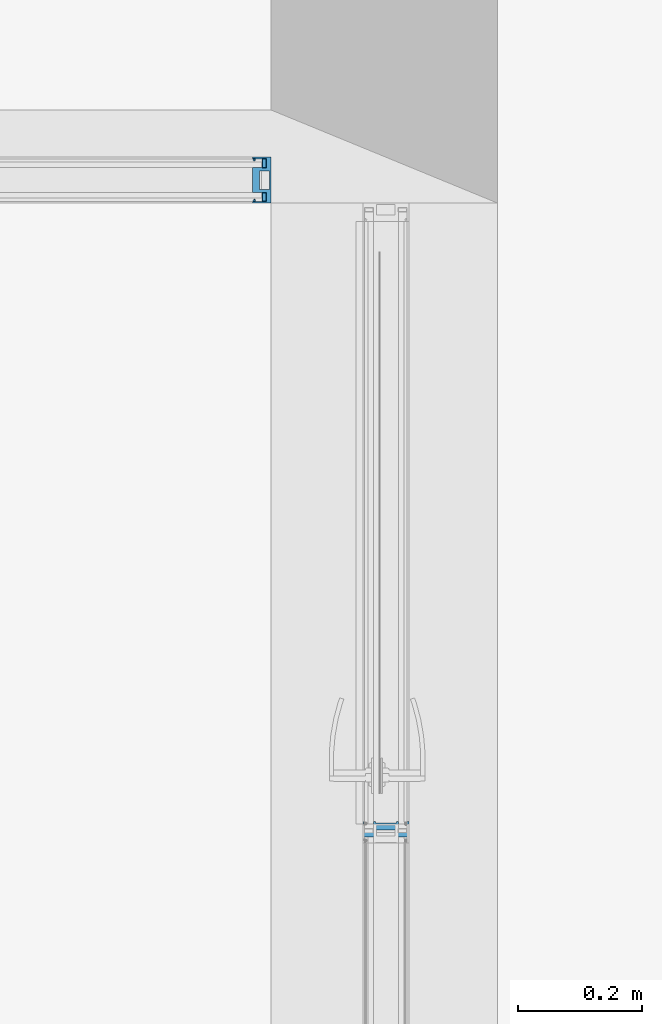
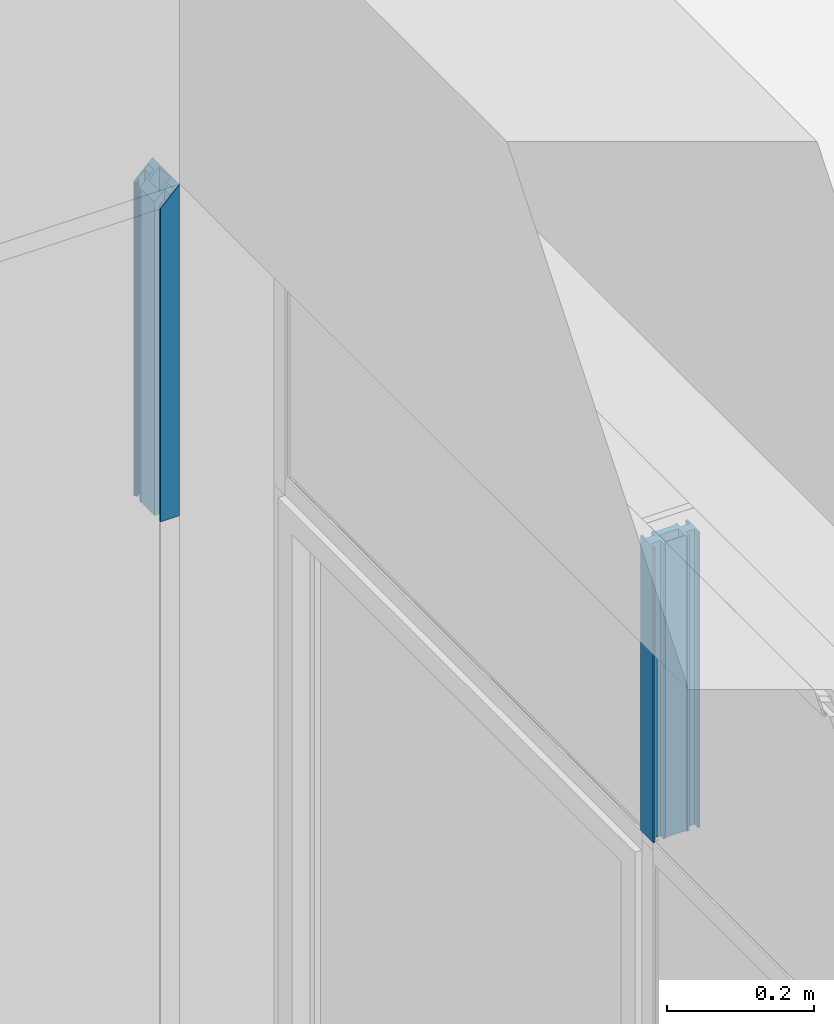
# One storey, part 73 of 89: 3 building element parts, 4 elements without a shape of their own.
"""IFC2X3 building model written with IfcOpenShell, lengths in millimetres."""

import ifcopenshell
import ifcopenshell.guid

model = None  # the IFC model being written
_history = None  # IfcOwnerHistory: only IFC2X3 demands one
_inside = {}  # id of a spatial element -> (the spatial element, [elements in it])
_under = {}  # id of a project, library or spatial element -> (it, [spatial elements below it])
_declared = {}  # id of a project -> (the project, [libraries it declares])
_typed = {}  # id of a type object -> (the type object, [elements of that type])
_made_of = {}  # id of a material, layer set ... -> (it, [elements and type objects made of it])


def new_model(schema):
    """Start an empty IFC model of exactly this schema.

    Asked for "IFC4X3", IfcOpenShell would pick the latest addendum, in which some entities
    have other attributes; the version numbers below select the first issue.
    IFC2X3 requires an IfcOwnerHistory on every rooted entity: one is made here for all.
    """
    global model, _history
    if schema == "IFC4X3":
        model = ifcopenshell.file(schema_version=(4, 3, 0, 0))
    else:
        model = ifcopenshell.file(schema=schema)
    _inside.clear()
    _under.clear()
    _declared.clear()
    _typed.clear()
    _made_of.clear()
    _history = None
    if model.schema == "IFC2X3":
        org = make("IfcOrganization", Name="unknown")
        user = make(
            "IfcPersonAndOrganization",
            ThePerson=make("IfcPerson", FamilyName="unknown"),
            TheOrganization=org,
        )
        app = make(
            "IfcApplication",
            ApplicationDeveloper=org,
            Version="unknown",
            ApplicationFullName="unknown",
            ApplicationIdentifier="unknown",
        )
        _history = make(
            "IfcOwnerHistory",
            OwningUser=user,
            OwningApplication=app,
            ChangeAction="ADDED",
            CreationDate=0,
        )
    return model


def make(cls, **values):
    """One entity of the class cls with the attributes given. An attribute that is None is left unset."""
    return model.create_entity(
        cls, **{name: value for name, value in values.items() if value is not None}
    )


def entity(cls, *values):
    """Any entity or typed value of the class cls, its attributes in the order of the schema. None: left unset."""
    e = model.create_entity(cls)
    for i, value in enumerate(values):
        if value is not None:
            e[i] = value
    return e


def rooted(cls, **values):
    """An entity with a GlobalId (a new one), such as an element, a storey or a relation."""
    return make(cls, GlobalId=ifcopenshell.guid.new(), OwnerHistory=_history, **values)


def si_unit(unit_type, name, prefix=None):
    """IfcSIUnit, for example si_unit("LENGTHUNIT", "METRE", prefix="MILLI")."""
    return make("IfcSIUnit", UnitType=unit_type, Prefix=prefix, Name=name)


def converted_unit(unit_type, name, factor, base, dimensions=None, offset=None):
    """IfcConversionBasedUnit, such as the inch: factor (a typed value) times the base unit."""
    return make(
        "IfcConversionBasedUnit"
        if offset is None
        else "IfcConversionBasedUnitWithOffset",
        ConversionOffset=offset,
        Dimensions=None
        if dimensions is None
        else entity("IfcDimensionalExponents", *dimensions),
        UnitType=unit_type,
        Name=name,
        ConversionFactor=make(
            "IfcMeasureWithUnit", ValueComponent=factor, UnitComponent=base
        ),
    )


def derived_unit(unit_type, elements):
    """IfcDerivedUnit: a product of units, each with its exponent."""
    return make(
        "IfcDerivedUnit",
        Elements=[
            make("IfcDerivedUnitElement", Unit=unit, Exponent=power)
            for unit, power in elements
        ],
        UnitType=unit_type,
    )


def money_unit(currency):
    """IfcMonetaryUnit."""
    return make("IfcMonetaryUnit", Currency=currency)


def assignment(units):
    """IfcUnitAssignment: the units of a project."""
    return None if units is None else make("IfcUnitAssignment", Units=units)


def point(xyz):
    """IfcCartesianPoint."""
    return None if xyz is None else make("IfcCartesianPoint", Coordinates=xyz)


def direction(xyz):
    """IfcDirection."""
    return None if xyz is None else make("IfcDirection", DirectionRatios=xyz)


def frame(location, z_axis=None, x_axis=None):
    """IfcAxis2Placement3D, a coordinate frame: its origin and axes. An axis left out is left unset."""
    return make(
        "IfcAxis2Placement3D",
        Location=point(location),
        Axis=direction(z_axis),
        RefDirection=direction(x_axis),
    )


def origin_with_axes():
    """The frame at (0, 0, 0) with the z axis (0, 0, 1) and the x axis (1, 0, 0) written out."""
    return frame((0.0, 0.0, 0.0), z_axis=(0.0, 0.0, 1.0), x_axis=(1.0, 0.0, 0.0))


def place(relative_to, where):
    """IfcLocalPlacement: puts the frame where relative to a parent placement (None: the world)."""
    return make(
        "IfcLocalPlacement", PlacementRelTo=relative_to, RelativePlacement=where
    )


def context(
    kind, dimensions, precision=None, world=None, true_north=None, identifier=None
):
    """IfcGeometricRepresentationContext, for example the 3D "Model" context."""
    return make(
        "IfcGeometricRepresentationContext",
        ContextIdentifier=identifier,
        ContextType=kind,
        CoordinateSpaceDimension=dimensions,
        Precision=precision,
        WorldCoordinateSystem=world,
        TrueNorth=true_north,
    )


def subcontext(parent, identifier, kind, view, scale=None):
    """IfcGeometricRepresentationSubContext, for example "Body" below "Model"."""
    return make(
        "IfcGeometricRepresentationSubContext",
        ContextIdentifier=identifier,
        ContextType=kind,
        ParentContext=parent,
        TargetScale=scale,
        TargetView=view,
    )


def project(units=None, contexts=None):
    """IfcProject with its units and contexts."""
    return rooted(
        "IfcProject",
        Name="project",
        RepresentationContexts=contexts,
        UnitsInContext=assignment(units),
    )


def spatial(cls, under=None, at=None, **own):
    """A site, building, storey or space (cls), placed at a placement, below another one or the project."""
    s = rooted(cls, ObjectPlacement=at, **own)
    if under is not None:
        _under.setdefault(under.id(), (under, []))[1].append(s)
    return s


def faces_of(points, faces, orient=None, outer=None):
    """IfcFace entities. A face is a list of loops; a loop is a list of indices into points, from 0.

    orient and outer hold one flag for each loop. By default every Orientation is true, the
    first loop of a face is its IfcFaceOuterBound and the others are IfcFaceBound.
    """
    made = []
    for i, loops in enumerate(faces):
        bounds = []
        for j, loop in enumerate(loops):
            is_outer = j == 0 if outer is None else outer[i][j]
            bounds.append(
                make(
                    "IfcFaceOuterBound" if is_outer else "IfcFaceBound",
                    Bound=make("IfcPolyLoop", Polygon=[points[k] for k in loop]),
                    Orientation=True if orient is None else orient[i][j],
                )
            )
        made.append(make("IfcFace", Bounds=bounds))
    return made


def faceted_brep(points, faces, orient=None, outer=None, voids=None):
    """IfcFacetedBrep: a solid bounded by flat faces; with voids (closed shells), ...WithVoids."""
    shared = [point(p) for p in points]
    hull = make("IfcClosedShell", CfsFaces=faces_of(shared, faces, orient, outer))
    if voids is None:
        return make("IfcFacetedBrep", Outer=hull)
    return make(
        "IfcFacetedBrepWithVoids",
        Outer=hull,
        Voids=[
            make(cls, CfsFaces=faces_of(shared, fs, o, b)) for cls, fs, o, b in voids
        ],
    )


def shape(context_of_items, identifier, shape_type, items):
    """IfcShapeRepresentation: the items that make up one representation, for example the "Body"."""
    return make(
        "IfcShapeRepresentation",
        ContextOfItems=context_of_items,
        RepresentationIdentifier=identifier,
        RepresentationType=shape_type,
        Items=items,
    )


def material(Name=None, Category=None):
    """IfcMaterial."""
    return make("IfcMaterial", Name=Name, Category=Category)


def made_of(thing, what):
    """Note that an element or type object is made of a material, layer set ...; save() writes the relation."""
    if what is not None:
        _made_of.setdefault(what.id(), (what, []))[1].append(thing)
    return thing


def type_object(cls, material=None, **own):
    """A type object (cls), such as IfcWallType, which elements share."""
    return made_of(rooted(cls, **own), material)


def element(
    cls,
    number,
    at=None,
    inside=None,
    cuts=None,
    type_object=None,
    material=None,
    context=None,
    identifier="Body",
    shape_type=None,
    held_by="IfcProductDefinitionShape",
    body=None,
    shapes=None,
    **own,
):
    """One element of the class cls, such as IfcWall. Its Tag is "e" and its number.

    at: its placement. inside: the storey or other place that contains it. cuts: it is an
    opening in that element (IfcRelVoidsElement). A single representation is given by context,
    identifier, shape_type and body (its items); several are given by shapes. held_by: the class
    of the entity that holds the representations. save() writes the other relations.
    """
    e = rooted(cls, Tag="e%d" % number, ObjectPlacement=at, **own)
    if body is not None:
        shapes = [shape(context, identifier, shape_type, body)]
    if shapes is not None:
        e.Representation = make(held_by, Representations=shapes)
    if inside is not None:
        _inside.setdefault(inside.id(), (inside, []))[1].append(e)
    if cuts is not None:
        rooted(
            "IfcRelVoidsElement", RelatingBuildingElement=cuts, RelatedOpeningElement=e
        )
    if type_object is not None:
        _typed.setdefault(type_object.id(), (type_object, []))[1].append(e)
    return made_of(e, material)


def aggregate(whole, parts):
    """IfcRelAggregates: a whole, such as a stair, and the parts it consists of."""
    return rooted("IfcRelAggregates", RelatingObject=whole, RelatedObjects=parts)


def save(model, path):
    """Write the relations noted so far, then the file.

    IfcRelAggregates (storeys below a building ...), IfcRelContainedInSpatialStructure (elements
    in a storey), IfcRelDefinesByType, IfcRelAssociatesMaterial and IfcRelDeclares: one each for
    every whole, place, type object, material and project.
    """
    for whole, parts in _under.values():
        aggregate(whole, parts)
    for where, things in _inside.values():
        rooted(
            "IfcRelContainedInSpatialStructure",
            RelatedElements=things,
            RelatingStructure=where,
        )
    for kind, things in _typed.values():
        rooted("IfcRelDefinesByType", RelatedObjects=things, RelatingType=kind)
    for what, things in _made_of.values():
        rooted("IfcRelAssociatesMaterial", RelatedObjects=things, RelatingMaterial=what)
    for by, libraries in _declared.values():
        rooted("IfcRelDeclares", RelatingContext=by, RelatedDefinitions=libraries)
    model.write(path)


model = new_model("IFC2X3")

# Units and contexts
model_context = context("Model", 3, precision=0.01, world=origin_with_axes(), true_north=direction((0.0, 1.0)))
body_context = subcontext(model_context, "Body", "Model", "MODEL_VIEW")
ifc_project = project(units=[si_unit("LENGTHUNIT", "METRE", prefix="MILLI"), si_unit("AREAUNIT", "SQUARE_METRE"), si_unit("VOLUMEUNIT", "CUBIC_METRE"), converted_unit("PLANEANGLEUNIT", "DEGREE", entity("IfcPlaneAngleMeasure", 0.0174532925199), si_unit("PLANEANGLEUNIT", "RADIAN"), dimensions=[0, 0, 0, 0, 0, 0, 0]), si_unit("SOLIDANGLEUNIT", "STERADIAN"), money_unit("EUR"), converted_unit("TIMEUNIT", "Year", entity("IfcTimeMeasure", 31556926.0), si_unit("TIMEUNIT", "SECOND"), dimensions=[0, 0, 1, 0, 0, 0, 0]), si_unit("MASSUNIT", "GRAM", prefix="KILO"), si_unit("THERMODYNAMICTEMPERATUREUNIT", "DEGREE_CELSIUS"), si_unit("LUMINOUSINTENSITYUNIT", "LUMEN"), si_unit("ENERGYUNIT", "JOULE", prefix="MEGA"), derived_unit("THERMALCONDUCTANCEUNIT", [(si_unit("POWERUNIT", "WATT"), 1), (si_unit("LENGTHUNIT", "METRE"), -1), (si_unit("THERMODYNAMICTEMPERATUREUNIT", "KELVIN"), -1)]), derived_unit("SPECIFICHEATCAPACITYUNIT", [(si_unit("ENERGYUNIT", "JOULE"), 1), (si_unit("MASSUNIT", "GRAM", prefix="KILO"), -1), (si_unit("THERMODYNAMICTEMPERATUREUNIT", "KELVIN"), -1)]), derived_unit("MASSDENSITYUNIT", [(si_unit("MASSUNIT", "GRAM", prefix="KILO"), 1), (si_unit("VOLUMEUNIT", "CUBIC_METRE"), -1)])], contexts=[model_context])

# Site, building, storey
site_placement = place(None, origin_with_axes())
site = spatial("IfcSite", under=ifc_project, at=site_placement, Name="Puškini 31, Narva", CompositionType="ELEMENT")
building_placement = place(site_placement, origin_with_axes())
building = spatial("IfcBuilding", under=site, at=building_placement, Name="Narva Riigigümnaasium", CompositionType="ELEMENT")
storey_placement = place(building_placement, frame((0.0, 0.0, -3300.0), z_axis=(0.0, 0.0, 1.0), x_axis=(1.0, 0.0, 0.0)))
storey = spatial("IfcBuildingStorey", under=building, at=storey_placement, Name="1.korrus -3.3", CompositionType="ELEMENT", Elevation=-3300.0)

# Curtain wall, member, building element part
curtain_wall_type = type_object("IfcCurtainWallType", Name="Curtain Wall Type", PredefinedType="NOTDEFINED")
curtain_wall_1_placement = place(storey_placement, frame((47675.0000001, 242632.20006, -3.78005973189e-05), z_axis=(0.0, 0.0, 1.0), x_axis=(1.0, 0.0, 0.0)))
curtain_wall_1 = element("IfcCurtainWall", 1, at=curtain_wall_1_placement, inside=storey, type_object=curtain_wall_type, Name="G-SKLF-10")
member_type_1 = type_object("IfcMemberType", Name="34 x 37", PredefinedType="MULLION")
member_1_placement = place(curtain_wall_1_placement, frame((0.0, 314.800002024, 2430.00006962), z_axis=(0.0, 0.0, 1.0), x_axis=(0.0, 1.0, 0.0)))
member_1 = element("IfcMember", 2, at=member_1_placement, type_object=member_type_1, Name="G-SKLF-10-raam", ObjectType="MULLION")
aggregate(curtain_wall_1, [member_1])
ifc_material_1 = material(Name="Teras RAL7012")
building_element_part_1_placement = place(member_1_placement, origin_with_axes())
building_element_part_1 = element("IfcBuildingElementPart", 3, at=building_element_part_1_placement, material=ifc_material_1, Name="Teras RAL7012", context=body_context, shape_type="Brep", body=[
    faceted_brep([(-14.8000001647, -17.0000000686, 0.0), (-3.08905781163e-07, -17.0000000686, 0.0), (-3.08905781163e-07, -17.0000000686, 489.999903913), (-14.8000001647, -17.0000000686, 489.999903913), (-14.8000001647, 17.0000001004, 0.0), (-3.08905781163e-07, 17.0000001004, 0.0), (14.8000003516, 17.0000001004, 0.0), (14.8000003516, -17.0000000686, 0.0), (-12.8000002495, 15.0000001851, 0.0), (-12.8000002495, -15.0000001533, 0.0), (4.0000003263, -15.0000001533, 0.0), (4.0000003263, 15.0000001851, 0.0), (14.8000003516, -17.0000000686, 489.999903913), (14.8000003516, 17.0000001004, 489.999903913), (-3.08905781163e-07, 17.0000001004, 489.999903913), (-14.8000001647, 17.0000001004, 489.999903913), (-12.8000002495, 15.0000001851, 489.999903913), (4.0000003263, 15.0000001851, 489.999903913), (4.0000003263, -15.0000001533, 489.999903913), (-12.8000002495, -15.0000001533, 489.999903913)], [[[0, 1, 2, 3]], [[0, 4, 5, 6, 7, 1], [8, 9, 10, 11]], [[1, 7, 12, 2]], [[3, 2, 12, 13, 14, 15], [16, 17, 18, 19]], [[4, 0, 3, 15]], [[5, 4, 15, 14]], [[6, 5, 14, 13]], [[7, 6, 13, 12]], [[9, 8, 16, 19]], [[10, 9, 19, 18]], [[11, 10, 18, 17]], [[8, 11, 17, 16]]]),
    faceted_brep([(0.0, 37.0000000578, 0.0), (0.0, 17.0, 0.0), (0.0, 17.0, 489.999903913), (0.0, 37.0000000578, 489.999903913), (17.0000193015, 37.0000000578, 0.0), (17.0000193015, 34.0161446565, 0.0), (15.5126239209, 34.0161444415, 0.0), (11.987414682, 34.0161444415, 0.0), (7.50000002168, 34.0161446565, 0.0), (7.50000002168, 20.0000000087, 0.0), (17.0000193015, 20.0000000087, 0.0), (17.0000193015, 17.0, 0.0), (14.8000003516, 17.0000001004, 0.0), (14.8000003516, 17.0000001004, 489.999903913), (17.0000193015, 17.0, 489.999903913), (17.0000193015, 20.0000000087, 489.999903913), (7.50000002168, 20.0000000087, 489.999903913), (7.50000002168, 34.0161446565, 489.999903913), (11.987414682, 34.0161444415, 489.999903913), (15.5126239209, 34.0161444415, 489.999903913), (17.0000193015, 34.0161446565, 489.999903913), (17.0000193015, 37.0000000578, 489.999903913)], [[[0, 1, 2, 3]], [[0, 4, 5, 6, 7, 8, 9, 10, 11, 12, 1]], [[1, 12, 13, 2]], [[3, 2, 13, 14, 15, 16, 17, 18, 19, 20, 21]], [[4, 0, 3, 21]], [[5, 4, 21, 20]], [[6, 5, 20, 19]], [[7, 6, 19, 18]], [[8, 7, 18, 17]], [[9, 8, 17, 16]], [[10, 9, 16, 15]], [[11, 10, 15, 14]], [[12, 11, 14, 13]]]),
    faceted_brep([(0.0, -16.9999999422, 0.0), (0.0, -37.0, 0.0), (0.0, -37.0, 489.999903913), (0.0, -16.9999999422, 489.999903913), (14.8000003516, -17.0000000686, 0.0), (17.0000193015, -16.9999999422, 0.0), (17.0000193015, -19.9999999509, 0.0), (7.50000002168, -19.9999999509, 0.0), (7.50000002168, -34.0161445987, 0.0), (11.987414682, -34.0161444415, 0.0), (15.5126239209, -34.0161444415, 0.0), (17.0000193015, -34.0161445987, 0.0), (17.0000193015, -37.0, 0.0), (17.0000193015, -37.0, 489.999903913), (17.0000193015, -34.0161445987, 489.999903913), (15.5126239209, -34.0161444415, 489.999903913), (11.987414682, -34.0161444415, 489.999903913), (7.50000002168, -34.0161445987, 489.999903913), (7.50000002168, -19.9999999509, 489.999903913), (17.0000193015, -19.9999999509, 489.999903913), (17.0000193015, -16.9999999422, 489.999903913), (14.8000003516, -17.0000000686, 489.999903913)], [[[0, 1, 2, 3]], [[0, 4, 5, 6, 7, 8, 9, 10, 11, 12, 1]], [[1, 12, 13, 2]], [[3, 2, 13, 14, 15, 16, 17, 18, 19, 20, 21]], [[4, 0, 3, 21]], [[5, 4, 21, 20]], [[6, 5, 20, 19]], [[7, 6, 19, 18]], [[8, 7, 18, 17]], [[9, 8, 17, 16]], [[10, 9, 16, 15]], [[11, 10, 15, 14]], [[12, 11, 14, 13]]]),
    faceted_brep([(0.0, 17.0, 0.0), (0.0, 37.0, 0.0), (0.0, 37.0, 489.999903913), (0.0, 17.0, 489.999903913), (-14.8000001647, 17.0000001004, 0.0), (-17.0000193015, 17.0, 0.0), (-17.0000193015, 20.0, 0.0), (-7.49999999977, 20.0, 0.0), (-7.49999999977, 34.0161444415, 0.0), (-11.987414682, 34.0161444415, 0.0), (-15.5126239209, 34.0161444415, 0.0), (-17.0000193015, 34.0161444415, 0.0), (-17.0000193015, 37.0, 0.0), (-17.0000193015, 37.0, 489.999903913), (-17.0000193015, 34.0161444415, 489.999903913), (-15.5126239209, 34.0161444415, 489.999903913), (-11.987414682, 34.0161444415, 489.999903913), (-7.49999999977, 34.0161444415, 489.999903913), (-7.49999999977, 20.0, 489.999903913), (-17.0000193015, 20.0, 489.999903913), (-17.0000193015, 17.0, 489.999903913), (-14.8000001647, 17.0000001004, 489.999903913)], [[[0, 1, 2, 3]], [[0, 4, 5, 6, 7, 8, 9, 10, 11, 12, 1]], [[1, 12, 13, 2]], [[3, 2, 13, 14, 15, 16, 17, 18, 19, 20, 21]], [[4, 0, 3, 21]], [[5, 4, 21, 20]], [[6, 5, 20, 19]], [[7, 6, 19, 18]], [[8, 7, 18, 17]], [[9, 8, 17, 16]], [[10, 9, 16, 15]], [[11, 10, 15, 14]], [[12, 11, 14, 13]]]),
    faceted_brep([(0.0, -17.0, 0.0), (-14.8000001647, -17.0000000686, 0.0), (-14.8000001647, -17.0000000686, 489.999903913), (0.0, -17.0, 489.999903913), (0.0, -37.0, 0.0), (-17.0000193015, -37.0, 0.0), (-17.0000193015, -34.0161444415, 0.0), (-15.5126239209, -34.0161444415, 0.0), (-11.987414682, -34.0161444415, 0.0), (-7.49999999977, -34.0161444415, 0.0), (-7.49999999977, -20.0, 0.0), (-17.0000193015, -20.0, 0.0), (-17.0000193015, -17.0, 0.0), (-17.0000193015, -17.0, 489.999903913), (-17.0000193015, -20.0, 489.999903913), (-7.49999999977, -20.0, 489.999903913), (-7.49999999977, -34.0161444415, 489.999903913), (-11.987414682, -34.0161444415, 489.999903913), (-15.5126239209, -34.0161444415, 489.999903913), (-17.0000193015, -34.0161444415, 489.999903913), (-17.0000193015, -37.0, 489.999903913), (0.0, -37.0, 489.999903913)], [[[0, 1, 2, 3]], [[0, 4, 5, 6, 7, 8, 9, 10, 11, 12, 1]], [[1, 12, 13, 2]], [[3, 2, 13, 14, 15, 16, 17, 18, 19, 20, 21]], [[4, 0, 3, 21]], [[5, 4, 21, 20]], [[6, 5, 20, 19]], [[7, 6, 19, 18]], [[8, 7, 18, 17]], [[9, 8, 17, 16]], [[10, 9, 16, 15]], [[11, 10, 15, 14]], [[12, 11, 14, 13]]]),
])
aggregate(member_1, [building_element_part_1])

# Curtain wall, member, building element parts
curtain_wall_2_placement = place(storey_placement, frame((40014.000008, 243997.000057, -9.155864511e-06), z_axis=(0.0, 0.0, 1.0), x_axis=(1.0, 0.0, 0.0)))
curtain_wall_2 = element("IfcCurtainWall", 4, at=curtain_wall_2_placement, inside=storey, type_object=curtain_wall_type, Name="G-SKLF-09")
member_type_2 = type_object("IfcMemberType", Name="30 x -83", PredefinedType="MULLION")
member_2_placement = place(curtain_wall_2_placement, frame((7476.00004869, 0.0, 2400.00000716), z_axis=(0.0, 0.0, 1.0), x_axis=(-1.0, 0.0, 0.0)))
member_2 = element("IfcMember", 5, at=member_2_placement, type_object=member_type_2, Name="G-SKLF-46-raam", ObjectType="MULLION")
aggregate(curtain_wall_2, [member_2])
ifc_material_2 = material(Name="Klaasvill")
building_element_part_2_placement = place(member_2_placement, origin_with_axes())
building_element_part_2 = element("IfcBuildingElementPart", 6, at=building_element_part_2_placement, material=ifc_material_2, Name="Klaasvill", context=body_context, shape_type="Brep", body=[
    faceted_brep([(7.49999990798, -20.000000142, 0.0), (7.49999990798, -20.000000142, 542.500000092), (13.8499999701, -20.000000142, 536.15000003), (13.8499999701, -20.000000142, 0.0), (7.49999990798, -34.0161444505, 0.0), (7.49999990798, -34.0161444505, 542.500000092), (13.8499999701, -34.0161444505, 536.15000003), (13.8499999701, -34.0161444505, 0.0)], [[[0, 1, 2, 3]], [[4, 5, 1, 0]], [[1, 5, 6, 2]], [[3, 2, 6, 7]], [[0, 3, 7, 4]], [[7, 6, 5, 4]]]),
    faceted_brep([(24.987414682, -34.0161444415, 0.0), (24.987414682, -34.0161444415, 525.012585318), (25.004489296, -32.0307503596, 524.995510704), (25.004489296, -32.0307503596, 0.0), (28.5126239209, -34.0161444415, 0.0), (28.5126239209, -34.0161444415, 521.487376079), (28.7655837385, -33.0385325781, 521.234416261), (28.4955493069, -32.0307503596, 521.504450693), (27.75780152, -31.2930025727, 522.24219848), (26.7500193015, -31.0229681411, 523.249980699), (25.742237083, -31.2930025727, 524.257762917), (25.742237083, -31.2930025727, 0.0), (26.7500193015, -31.0229681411, 0.0), (27.75780152, -31.2930025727, 0.0), (28.4955493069, -32.0307503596, 0.0), (28.7655837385, -33.0385325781, 0.0)], [[[0, 1, 2, 3]], [[4, 5, 1, 0]], [[1, 5, 6, 7, 8, 9, 10, 2]], [[3, 2, 10, 11]], [[0, 3, 11, 12, 13, 14, 15, 4]], [[15, 6, 5, 4]], [[14, 7, 6, 15]], [[13, 8, 7, 14]], [[12, 9, 8, 13]], [[11, 10, 9, 12]]]),
    faceted_brep([(7.49999990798, 19.9999997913, 0.0), (7.49999990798, 19.9999997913, 542.500000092), (7.49999990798, 34.0161445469, 542.500000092), (7.49999990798, 34.0161445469, 0.0), (13.8499999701, 19.9999997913, 0.0), (13.8499999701, 19.9999997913, 536.15000003), (13.8499999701, 34.0161445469, 536.15000003), (13.8499999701, 34.0161445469, 0.0)], [[[0, 1, 2, 3]], [[4, 5, 1, 0]], [[1, 5, 6, 2]], [[3, 2, 6, 7]], [[0, 3, 7, 4]], [[7, 6, 5, 4]]]),
    faceted_brep([(25.004489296, 32.0307503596, 0.0), (25.004489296, 32.0307503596, 524.995510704), (24.987414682, 34.0161444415, 525.012585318), (24.987414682, 34.0161444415, 0.0), (25.742237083, 31.2930025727, 0.0), (25.742237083, 31.2930025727, 524.257762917), (26.7500193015, 31.0229681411, 523.249980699), (27.75780152, 31.2930025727, 522.24219848), (28.4955493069, 32.0307503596, 521.504450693), (28.7655837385, 33.0385325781, 521.234416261), (28.5126239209, 34.0161444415, 521.487376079), (28.5126239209, 34.0161444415, 0.0), (28.7655837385, 33.0385325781, 0.0), (28.4955493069, 32.0307503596, 0.0), (27.75780152, 31.2930025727, 0.0), (26.7500193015, 31.0229681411, 0.0)], [[[0, 1, 2, 3]], [[4, 5, 1, 0]], [[1, 5, 6, 7, 8, 9, 10, 2]], [[3, 2, 10, 11]], [[0, 3, 11, 12, 13, 14, 15, 4]], [[15, 6, 5, 4]], [[14, 7, 6, 15]], [[13, 8, 7, 14]], [[12, 9, 8, 13]], [[11, 10, 9, 12]]]),
])
building_element_part_3_placement = place(member_2_placement, origin_with_axes())
building_element_part_3 = element("IfcBuildingElementPart", 7, at=building_element_part_3_placement, material=ifc_material_1, Name="Teras RAL7012", context=body_context, shape_type="Brep", body=[
    faceted_brep([(0.0, 17.0000000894, 0.0), (0.0, 17.0000000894, 550.0), (29.5999996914, 17.0000000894, 520.400000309), (29.5999996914, 17.0000000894, 0.0), (0.0, -17.0000000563, 0.0), (0.0, -17.0000000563, 550.0), (29.5999996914, -17.0000000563, 520.400000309), (1.99999991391, -15.0000001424, 548.000000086), (1.99999991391, 15.0000001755, 548.000000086), (18.7999996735, 15.0000001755, 531.200000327), (18.7999996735, -15.0000001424, 531.200000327), (29.5999996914, -17.0000000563, 0.0), (1.99999991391, -15.0000001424, 0.0), (18.7999996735, -15.0000001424, 0.0), (18.7999996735, 15.0000001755, 0.0), (1.99999991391, 15.0000001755, 0.0)], [[[0, 1, 2, 3]], [[4, 5, 1, 0]], [[1, 5, 6, 2], [7, 8, 9, 10]], [[3, 2, 6, 11]], [[0, 3, 11, 4], [12, 13, 14, 15]], [[11, 6, 5, 4]], [[15, 8, 7, 12]], [[14, 9, 8, 15]], [[13, 10, 9, 14]], [[12, 7, 10, 13]]]),
    faceted_brep([(0.0, -17.0, 0.0), (0.0, -17.0, 550.0), (29.5999996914, -17.0000000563, 520.400000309), (29.5999996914, -17.0000000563, 0.0), (0.0, -37.0, 0.0), (0.0, -37.0, 550.0), (30.0000193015, -37.0, 519.999980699), (30.0000193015, -34.0161444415, 519.999980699), (28.5126239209, -34.0161444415, 521.487376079), (24.987414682, -34.0161444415, 525.012585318), (13.8499999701, -34.0161444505, 536.15000003), (7.49999999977, -34.0161444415, 542.5), (7.49999999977, -20.0, 542.5), (13.8499999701, -20.000000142, 536.15000003), (30.0000193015, -20.0, 519.999980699), (30.0000193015, -17.0, 519.999980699), (30.0000193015, -17.0, 0.0), (30.0000193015, -20.0, 0.0), (13.8499999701, -20.000000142, 0.0), (7.49999999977, -20.0, 0.0), (7.49999999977, -34.0161444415, 0.0), (13.8499999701, -34.0161444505, 0.0), (24.987414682, -34.0161444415, 0.0), (28.5126239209, -34.0161444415, 0.0), (30.0000193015, -34.0161444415, 0.0), (30.0000193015, -37.0, 0.0)], [[[0, 1, 2, 3]], [[4, 5, 1, 0]], [[1, 5, 6, 7, 8, 9, 10, 11, 12, 13, 14, 15, 2]], [[3, 2, 15, 16]], [[0, 3, 16, 17, 18, 19, 20, 21, 22, 23, 24, 25, 4]], [[25, 6, 5, 4]], [[24, 7, 6, 25]], [[23, 8, 7, 24]], [[22, 9, 8, 23]], [[21, 10, 9, 22]], [[20, 11, 10, 21]], [[19, 12, 11, 20]], [[18, 13, 12, 19]], [[17, 14, 13, 18]], [[16, 15, 14, 17]]]),
    faceted_brep([(0.0, 17.0, 0.0), (0.0, 17.0, 550.0), (0.0, 37.0, 550.0), (0.0, 37.0, 0.0), (29.5999996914, 17.0000000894, 0.0), (29.5999996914, 17.0000000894, 520.400000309), (30.0000193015, 17.0, 519.999980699), (30.0000193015, 20.0, 519.999980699), (13.8499999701, 19.9999997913, 536.15000003), (7.49999999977, 20.0, 542.5), (7.49999999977, 34.0161444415, 542.5), (13.8499999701, 34.0161445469, 536.15000003), (24.987414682, 34.0161444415, 525.012585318), (28.5126239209, 34.0161444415, 521.487376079), (30.0000193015, 34.0161444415, 519.999980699), (30.0000193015, 37.0, 519.999980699), (30.0000193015, 37.0, 0.0), (30.0000193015, 34.0161444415, 0.0), (28.5126239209, 34.0161444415, 0.0), (24.987414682, 34.0161444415, 0.0), (13.8499999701, 34.0161445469, 0.0), (7.49999999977, 34.0161444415, 0.0), (7.49999999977, 20.0, 0.0), (13.8499999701, 19.9999997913, 0.0), (30.0000193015, 20.0, 0.0), (30.0000193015, 17.0, 0.0)], [[[0, 1, 2, 3]], [[4, 5, 1, 0]], [[1, 5, 6, 7, 8, 9, 10, 11, 12, 13, 14, 15, 2]], [[3, 2, 15, 16]], [[0, 3, 16, 17, 18, 19, 20, 21, 22, 23, 24, 25, 4]], [[25, 6, 5, 4]], [[24, 7, 6, 25]], [[23, 8, 7, 24]], [[22, 9, 8, 23]], [[21, 10, 9, 22]], [[20, 11, 10, 21]], [[19, 12, 11, 20]], [[18, 13, 12, 19]], [[17, 14, 13, 18]], [[16, 15, 14, 17]]]),
])
aggregate(member_2, [building_element_part_2, building_element_part_3])

save(model, "model.ifc")
